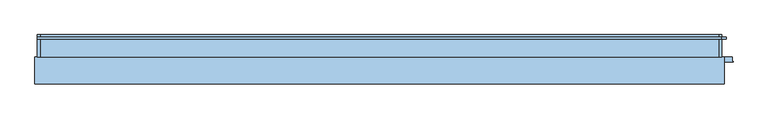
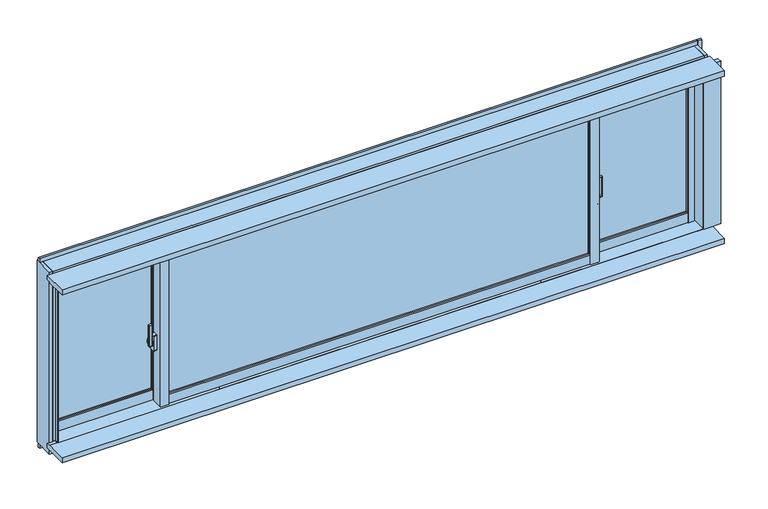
"""IFC4 building model written with IfcOpenShell, lengths in millimetres: window geometry, FNSⅡ100R_非防火_面付枠_単窓 : 両袖片引."""

from ifc_helpers import new_model, si_unit, point, frame, frame_2d, origin, place, context, project, spatial, polyline, circle_curve, trimmed, segment, composite_curve, outline, extrude, faceted_brep, source, transform, mapped, element, save
from ifc_brep_helpers import plane_surface, cylinder_surface, revolved_surface, advanced_brep


def window_23b62082(model_context):
    return source(origin(), model_context, "Body", "SolidModel", [
        extrude(outline(polyline([(1020.0, 82.0), (1468.0, 82.0), (1468.0, 76.0), (1020.0, 76.0), (1020.0, 82.0)])), frame((0.0, 0.0, 948.0), z_axis=(0.0, 0.0, 1.0), x_axis=(1.0, 0.0, 0.0)), (0.0, 0.0, 1.0), 712.0),
        extrude(outline(polyline([(1020.0, 100.0), (1468.0, 100.0), (1468.0, 94.0), (1020.0, 94.0), (1020.0, 100.0)])), frame((0.0, 0.0, 948.0), z_axis=(0.0, 0.0, 1.0), x_axis=(1.0, 0.0, 0.0)), (0.0, 0.0, 1.0), 712.0),
        extrude(outline(composite_curve([segment(trimmed(circle_curve(frame_2d((1041.0, 40.6)), 2.0), [point((1039.0, 40.6))], [point((1041.3606557, 42.5672131))], False, "CARTESIAN"), True, "CONTINUOUS"), segment(polyline([(1041.3606557, 42.5672131), (1052.3606557, 40.5505464)]), True, "CONTINUOUS"), segment(trimmed(circle_curve(frame_2d((1052.0, 38.5833333)), 2.0), [point((1052.3606557, 40.5505464))], [point((1054.0, 38.5833333))], False, "CARTESIAN"), True, "CONTINUOUS"), segment(polyline([(1054.0, 38.5833333), (1054.0, 34.4166667)]), True, "CONTINUOUS"), segment(trimmed(circle_curve(frame_2d((1052.0, 34.4166667)), 2.0), [point((1054.0, 34.4166667))], [point((1052.3606557, 32.4494536))], False, "CARTESIAN"), True, "CONTINUOUS"), segment(polyline([(1052.3606557, 32.4494536), (1041.3606557, 30.4327869)]), True, "CONTINUOUS"), segment(trimmed(circle_curve(frame_2d((1041.0, 32.4)), 2.0), [point((1041.3606557, 30.4327869))], [point((1039.0, 32.4))], False, "CARTESIAN"), True, "CONTINUOUS"), segment(polyline([(1039.0, 32.4), (1039.0, 40.6)]), True, "CONTINUOUS")], self_intersect=False)), frame((0.0, 0.0, 1190.0), z_axis=(0.0, 0.0, 1.0), x_axis=(1.0, 0.0, 0.0)), (0.0, 0.0, 1.0), 100.0),
        advanced_brep(
        [(1039.0, 42.6466117, 1179.3190372), (1039.0, 41.4310745, 1186.2126915), (1037.5, 41.4310745, 1186.2126915), (1037.5, 42.907084, 1177.8418256), (1045.5, 42.907084, 1177.8418256), (1045.5, 42.6466117, 1179.3190372), (1045.5, 44.8234285, 1221.7333311), (1037.5, 44.8234285, 1221.7333311), (1045.5, 44.4351999, 1220.2844424), (1039.0, 44.4351999, 1220.2844424), (1039.0, 42.6234666, 1213.5229616), (1037.5, 42.6234666, 1213.5229616)],
        [
            (0, 1),
            (1, 2),
            (2, 3),
            (3, 4),
            (4, 5),
            (5, 0),
            (6, 4, circle_curve(frame((1045.5, 39.0, 1200.0), z_axis=(-1.0, 0.0, 0.0), x_axis=(0.0, 0.25881904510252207, 0.965925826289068)), 22.5)),
            (3, 7, circle_curve(frame((1037.5, 39.0, 1200.0), z_axis=(1.0, 0.0, 0.0), x_axis=(0.0, 0.25881904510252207, 0.965925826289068)), 22.5)),
            (7, 6),
            (8, 5, circle_curve(frame((1045.5, 39.0, 1200.0), z_axis=(-1.0, 0.0, 0.0), x_axis=(0.0, 0.25881904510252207, 0.965925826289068)), 21.0)),
            (6, 8),
            (9, 0, circle_curve(frame((1039.0, 39.0, 1200.0), z_axis=(-1.0, 0.0, 0.0), x_axis=(0.0, 0.25881904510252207, 0.965925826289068)), 21.0)),
            (8, 9),
            (9, 10),
            (10, 1, circle_curve(frame((1039.0, 39.0, 1200.0), z_axis=(1.0, 0.0, 0.0), x_axis=(0.0, -1.0, 0.0)), 14.0)),
            (7, 11),
            (11, 10),
            (2, 11, circle_curve(frame((1037.5, 39.0, 1200.0), z_axis=(-1.0, 0.0, 0.0), x_axis=(0.0, -1.0, 0.0)), 14.0)),
        ],
        [
            plane_surface(frame((1043.5470497, 39.0, 1200.0), z_axis=(0.0, -0.9848077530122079, -0.17364817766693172), x_axis=(0.0, 0.17364817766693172, -0.9848077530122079))),
            cylinder_surface(frame((1043.5470497, 39.0, 1200.0), z_axis=(1.0, 0.0, 0.0), x_axis=(0.0, 0.25881904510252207, 0.965925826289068)), 22.5),
            plane_surface(frame((1045.5, 39.0, 1200.0), z_axis=(1.0, 0.0, 0.0), x_axis=(0.0, 0.25881904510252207, 0.965925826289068))),
            revolved_surface(polyline([(1045.5, 44.43519994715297, 1220.2844423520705), (1039.0, 44.43519994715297, 1220.2844423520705)]), (1043.5470497, 39.0, 1200.0), (1.0, 0.0, 0.0)),
            plane_surface(frame((1039.0, 39.0, 1200.0), z_axis=(1.0, 0.0, 0.0), x_axis=(0.0, 0.25881904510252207, 0.965925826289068))),
            plane_surface(frame((1043.5470497, 39.0, 1200.0), z_axis=(0.0, -0.965925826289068, 0.25881904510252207), x_axis=(0.0, 0.25881904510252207, 0.965925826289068))),
            plane_surface(frame((1037.5, 39.0, 1200.0), z_axis=(-1.0, 0.0, 0.0), x_axis=(0.0, 0.25881904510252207, 0.965925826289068))),
            cylinder_surface(frame((1037.5, 39.0, 1200.0), z_axis=(1.0, 0.0, 0.0), x_axis=(0.0, -1.0, 0.0)), 14.0),
        ],
        [
            (0, [[1, 2, 3, 4, 5, 6]]),
            (1, [[7, -4, 8, 9]]),
            (2, [[10, -5, -7, 11]]),
            (3, [[12, -6, -10, 13]]),
            (4, [[14, 15, -1, -12]]),
            (5, [[16, 17, -14, -13, -11, -9]]),
            (6, [[-3, 18, -16, -8]]),
            (7, [[-17, -18, -2, -15]]),
        ],
    ),
        extrude(outline(composite_curve([segment(trimmed(circle_curve(frame_2d((39.0, 1200.0)), 11.5), [point((50.5, 1200.0))], [point((27.5, 1200.0))], False, "CARTESIAN"), True, "CONTINUOUS"), segment(trimmed(circle_curve(frame_2d((39.0, 1200.0)), 11.5), [point((27.5, 1200.0))], [point((50.5, 1200.0))], False, "CARTESIAN"), True, "CONTINUOUS")], self_intersect=False)), frame((1035.0, 0.0, 0.0), z_axis=(1.0, 0.0, 0.0), x_axis=(0.0, 1.0, 0.0)), (0.0, 0.0, 1.0), 2.5),
        extrude(outline(composite_curve([segment(polyline([(30.0, 1237.5), (48.0, 1237.5)]), True, "CONTINUOUS"), segment(trimmed(circle_curve(frame_2d((48.0, 1235.5)), 2.0), [point((48.0, 1237.5))], [point((50.0, 1235.5))], False, "CARTESIAN"), True, "CONTINUOUS"), segment(polyline([(50.0, 1235.5), (50.0, 1164.5)]), True, "CONTINUOUS"), segment(trimmed(circle_curve(frame_2d((48.0, 1164.5)), 2.0), [point((50.0, 1164.5))], [point((48.0, 1162.5))], False, "CARTESIAN"), True, "CONTINUOUS"), segment(polyline([(48.0, 1162.5), (30.0, 1162.5)]), True, "CONTINUOUS"), segment(trimmed(circle_curve(frame_2d((30.0, 1164.5)), 2.0), [point((30.0, 1162.5))], [point((28.0, 1164.5))], False, "CARTESIAN"), True, "CONTINUOUS"), segment(polyline([(28.0, 1164.5), (28.0, 1235.5)]), True, "CONTINUOUS"), segment(trimmed(circle_curve(frame_2d((30.0, 1235.5)), 2.0), [point((28.0, 1235.5))], [point((30.0, 1237.5))], False, "CARTESIAN"), True, "CONTINUOUS")], self_intersect=False)), frame((1020.0, 0.0, 0.0), z_axis=(1.0, 0.0, 0.0), x_axis=(0.0, 1.0, 0.0)), (0.0, 0.0, 1.0), 15.0),
        extrude(outline(composite_curve([segment(polyline([(-1039.0, 40.6), (-1039.0, 32.4)]), True, "CONTINUOUS"), segment(trimmed(circle_curve(frame_2d((-1041.0, 32.4)), 2.0), [point((-1039.0, 32.4))], [point((-1041.3606557, 30.4327869))], False, "CARTESIAN"), True, "CONTINUOUS"), segment(polyline([(-1041.3606557, 30.4327869), (-1052.3606557, 32.4494536)]), True, "CONTINUOUS"), segment(trimmed(circle_curve(frame_2d((-1052.0, 34.4166667)), 2.0), [point((-1052.3606557, 32.4494536))], [point((-1054.0, 34.4166667))], False, "CARTESIAN"), True, "CONTINUOUS"), segment(polyline([(-1054.0, 34.4166667), (-1054.0, 38.5833333)]), True, "CONTINUOUS"), segment(trimmed(circle_curve(frame_2d((-1052.0, 38.5833333)), 2.0), [point((-1054.0, 38.5833333))], [point((-1052.3606557, 40.5505464))], False, "CARTESIAN"), True, "CONTINUOUS"), segment(polyline([(-1052.3606557, 40.5505464), (-1041.3606557, 42.5672131)]), True, "CONTINUOUS"), segment(trimmed(circle_curve(frame_2d((-1041.0, 40.6)), 2.0), [point((-1041.3606557, 42.5672131))], [point((-1039.0, 40.6))], False, "CARTESIAN"), True, "CONTINUOUS")], self_intersect=False)), frame((0.0, 0.0, 1190.0), z_axis=(0.0, 0.0, 1.0), x_axis=(1.0, 0.0, 0.0)), (0.0, 0.0, 1.0), 100.0),
        advanced_brep(
        [(-1039.0, 42.6466117, 1179.3190372), (-1045.5, 42.6466117, 1179.3190372), (-1045.5, 42.907084, 1177.8418256), (-1037.5, 42.907084, 1177.8418256), (-1037.5, 41.4310745, 1186.2126915), (-1039.0, 41.4310745, 1186.2126915), (-1045.5, 44.4351999, 1220.2844424), (-1045.5, 44.8234285, 1221.7333311), (-1037.5, 44.8234285, 1221.7333311), (-1037.5, 42.6234666, 1213.5229616), (-1039.0, 44.4351999, 1220.2844424), (-1039.0, 42.6234666, 1213.5229616)],
        [
            (0, 1),
            (1, 2),
            (2, 3),
            (3, 4),
            (4, 5),
            (5, 0),
            (6, 7),
            (7, 2, circle_curve(frame((-1045.5, 39.0, 1200.0), z_axis=(-1.0, 0.0, 0.0), x_axis=(0.0, 0.25881904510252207, 0.965925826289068)), 22.5)),
            (1, 6, circle_curve(frame((-1045.5, 39.0, 1200.0), z_axis=(1.0, 0.0, 0.0), x_axis=(0.0, 0.25881904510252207, 0.965925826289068)), 21.0)),
            (3, 8, circle_curve(frame((-1037.5, 39.0, 1200.0), z_axis=(1.0, 0.0, 0.0), x_axis=(0.0, 0.25881904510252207, 0.965925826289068)), 22.5)),
            (8, 9),
            (9, 4, circle_curve(frame((-1037.5, 39.0, 1200.0), z_axis=(1.0, 0.0, 0.0), x_axis=(0.0, -1.0, 0.0)), 14.0)),
            (8, 7),
            (6, 10),
            (10, 11),
            (11, 9),
            (0, 10, circle_curve(frame((-1039.0, 39.0, 1200.0), z_axis=(1.0, 0.0, 0.0), x_axis=(0.0, 0.25881904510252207, 0.965925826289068)), 21.0)),
            (5, 11, circle_curve(frame((-1039.0, 39.0, 1200.0), z_axis=(-1.0, 0.0, 0.0), x_axis=(0.0, -1.0, 0.0)), 14.0)),
        ],
        [
            plane_surface(frame((-1043.5470497, 39.0, 1200.0), z_axis=(0.0, -0.9848077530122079, -0.17364817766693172), x_axis=(0.0, 0.17364817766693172, -0.9848077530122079))),
            plane_surface(frame((-1045.5, 39.0, 1200.0), z_axis=(-1.0, 0.0, 0.0), x_axis=(0.0, 0.25881904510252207, 0.965925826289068))),
            plane_surface(frame((-1037.5, 39.0, 1200.0), z_axis=(1.0, 0.0, 0.0), x_axis=(0.0, 0.25881904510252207, 0.965925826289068))),
            plane_surface(frame((-1043.5470497, 39.0, 1200.0), z_axis=(0.0, -0.965925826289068, 0.25881904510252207), x_axis=(0.0, 0.25881904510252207, 0.965925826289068))),
            cylinder_surface(frame((-1043.5470497, 39.0, 1200.0), z_axis=(-1.0, 0.0, 0.0), x_axis=(0.0, 0.25881904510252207, 0.965925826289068)), 22.5),
            revolved_surface(polyline([(-1045.5, 44.43519994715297, 1220.2844423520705), (-1039.0, 44.43519994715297, 1220.2844423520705)]), (-1043.5470497, 39.0, 1200.0), (-1.0, 0.0, 0.0)),
            plane_surface(frame((-1039.0, 39.0, 1200.0), z_axis=(-1.0, 0.0, 0.0), x_axis=(0.0, 0.25881904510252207, 0.965925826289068))),
            cylinder_surface(frame((-1037.5, 39.0, 1200.0), z_axis=(-1.0, 0.0, 0.0), x_axis=(0.0, -1.0, 0.0)), 14.0),
        ],
        [
            (0, [[1, 2, 3, 4, 5, 6]]),
            (1, [[7, 8, -2, 9]]),
            (2, [[10, 11, 12, -4]]),
            (3, [[13, -7, 14, 15, 16, -11]]),
            (4, [[-13, -10, -3, -8]]),
            (5, [[-14, -9, -1, 17]]),
            (6, [[-17, -6, 18, -15]]),
            (7, [[-18, -5, -12, -16]]),
        ],
    ),
        extrude(outline(composite_curve([segment(trimmed(circle_curve(frame_2d((39.0, 1200.0)), 11.5), [point((50.5, 1200.0))], [point((27.5, 1200.0))], False, "CARTESIAN"), True, "CONTINUOUS"), segment(trimmed(circle_curve(frame_2d((39.0, 1200.0)), 11.5), [point((27.5, 1200.0))], [point((50.5, 1200.0))], False, "CARTESIAN"), True, "CONTINUOUS")], self_intersect=False)), frame((-1037.5, 0.0, 0.0), z_axis=(1.0, 0.0, 0.0), x_axis=(0.0, 1.0, 0.0)), (0.0, 0.0, 1.0), 2.5),
        extrude(outline(composite_curve([segment(polyline([(30.0, 1237.5), (48.0, 1237.5)]), True, "CONTINUOUS"), segment(trimmed(circle_curve(frame_2d((48.0, 1235.5)), 2.0), [point((48.0, 1237.5))], [point((50.0, 1235.5))], False, "CARTESIAN"), True, "CONTINUOUS"), segment(polyline([(50.0, 1235.5), (50.0, 1164.5)]), True, "CONTINUOUS"), segment(trimmed(circle_curve(frame_2d((48.0, 1164.5)), 2.0), [point((50.0, 1164.5))], [point((48.0, 1162.5))], False, "CARTESIAN"), True, "CONTINUOUS"), segment(polyline([(48.0, 1162.5), (30.0, 1162.5)]), True, "CONTINUOUS"), segment(trimmed(circle_curve(frame_2d((30.0, 1164.5)), 2.0), [point((30.0, 1162.5))], [point((28.0, 1164.5))], False, "CARTESIAN"), True, "CONTINUOUS"), segment(polyline([(28.0, 1164.5), (28.0, 1235.5)]), True, "CONTINUOUS"), segment(trimmed(circle_curve(frame_2d((30.0, 1235.5)), 2.0), [point((28.0, 1235.5))], [point((30.0, 1237.5))], False, "CARTESIAN"), True, "CONTINUOUS")], self_intersect=False)), frame((-1035.0, 0.0, 0.0), z_axis=(1.0, 0.0, 0.0), x_axis=(0.0, 1.0, 0.0)), (0.0, 0.0, 1.0), 15.0),
        extrude(outline(polyline([(-980.0, 24.0), (980.0, 24.0), (980.0, 18.0), (-980.0, 18.0), (-980.0, 24.0)])), frame((0.0, 0.0, 948.0), z_axis=(0.0, 0.0, 1.0), x_axis=(1.0, 0.0, 0.0)), (0.0, 0.0, 1.0), 712.0),
        extrude(outline(polyline([(-980.0, 42.0), (980.0, 42.0), (980.0, 36.0), (-980.0, 36.0), (-980.0, 42.0)])), frame((0.0, 0.0, 948.0), z_axis=(0.0, 0.0, 1.0), x_axis=(1.0, 0.0, 0.0)), (0.0, 0.0, 1.0), 712.0),
        extrude(outline(polyline([(-1468.0, 82.0), (-1020.0, 82.0), (-1020.0, 76.0), (-1468.0, 76.0), (-1468.0, 82.0)])), frame((0.0, 0.0, 948.0), z_axis=(0.0, 0.0, 1.0), x_axis=(1.0, 0.0, 0.0)), (0.0, 0.0, 1.0), 712.0),
        extrude(outline(polyline([(-1468.0, 100.0), (-1020.0, 100.0), (-1020.0, 94.0), (-1468.0, 94.0), (-1468.0, 100.0)])), frame((0.0, 0.0, 948.0), z_axis=(0.0, 0.0, 1.0), x_axis=(1.0, 0.0, 0.0)), (0.0, 0.0, 1.0), 712.0),
        faceted_brep([(-1500.0, 79.0, 1700.0), (-1489.5, 79.0, 1700.0), (-1489.5, 66.0, 1700.0), (-1468.0, 66.0, 1700.0), (-1468.0, 108.0, 1700.0), (-1500.0, 108.0, 1700.0), (-1500.0, 79.0, 860.0), (-1468.0, 79.0, 860.0), (-1468.0, 79.0, 900.0), (-1489.5, 79.0, 900.0), (-1500.0, 108.0, 860.0), (-1468.0, 108.0, 860.0), (-1489.5, 66.0, 900.0), (-1468.0, 66.0, 900.0)], [[[0, 1, 2, 3, 4, 5]], [[1, 0, 6, 7, 8, 9]], [[7, 6, 10, 11]], [[2, 1, 9, 12]], [[3, 2, 12, 13]], [[4, 3, 13, 8, 7, 11]], [[5, 4, 11, 10]], [[6, 0, 5, 10]], [[9, 8, 13, 12]]]),
        faceted_brep([(1500.0, 79.0, 1700.0), (1500.0, 108.0, 1700.0), (1468.0, 108.0, 1700.0), (1468.0, 66.0, 1700.0), (1489.5, 66.0, 1700.0), (1489.5, 79.0, 1700.0), (1489.5, 66.0, 860.0), (1489.5, 79.0, 860.0), (1500.0, 79.0, 860.0), (1468.0, 66.0, 860.0), (1468.0, 79.0, 860.0), (1468.0, 108.0, 860.0), (1500.0, 108.0, 860.0), (1468.0, 66.0, 900.0)], [[[0, 1, 2, 3, 4, 5]], [[5, 4, 6, 7]], [[8, 7, 6, 9, 10, 11, 12]], [[1, 0, 8, 12]], [[2, 1, 12, 11]], [[3, 2, 11, 10, 9, 13]], [[4, 3, 13, 9, 6]], [[0, 5, 7, 8]]]),
        faceted_brep([(-1001.8, 65.5, 1700.0), (-1020.0, 65.5, 1700.0), (-1020.0, 65.5, 900.0), (-1001.8, 65.5, 900.0), (-1001.8, 53.1, 1700.0), (-1001.8, 53.1, 900.0), (-980.0, 79.0, 900.0), (-1020.0, 79.0, 900.0), (-1020.0, 79.0, 860.0), (-980.0, 79.0, 860.0), (-980.0, 53.1, 1700.0), (-980.0, 108.0, 1700.0), (-1020.0, 108.0, 1700.0), (-1020.0, 108.0, 860.0), (-980.0, 108.0, 860.0), (-980.0, 53.1, 900.0)], [[[0, 1, 2, 3]], [[4, 0, 3, 5]], [[6, 7, 8, 9]], [[1, 0, 4, 10, 11, 12]], [[13, 14, 9, 8]], [[10, 4, 5, 15]], [[11, 10, 15, 6, 9, 14]], [[12, 11, 14, 13]], [[1, 12, 13, 8, 7, 2]], [[7, 6, 15, 5, 3, 2]]]),
        faceted_brep([(1020.0, 79.0, 900.0), (980.0, 79.0, 900.0), (980.0, 79.0, 860.0), (1020.0, 79.0, 860.0), (1020.0, 108.0, 1700.0), (1020.0, 65.5, 1700.0), (1020.0, 65.5, 900.0), (1020.0, 108.0, 860.0), (980.0, 108.0, 1700.0), (980.0, 108.0, 860.0), (980.0, 53.1, 1700.0), (1001.8, 53.1, 1700.0), (1001.8, 65.5, 1700.0), (1001.8, 65.5, 900.0), (1001.8, 53.1, 900.0), (980.0, 53.1, 900.0)], [[[0, 1, 2, 3]], [[4, 5, 6, 0, 3, 7]], [[8, 4, 7, 9]], [[5, 4, 8, 10, 11, 12]], [[9, 7, 3, 2]], [[1, 0, 6, 13, 14, 15]], [[10, 8, 9, 2, 1, 15]], [[11, 10, 15, 14]], [[12, 11, 14, 13]], [[5, 12, 13, 6]]]),
        extrude(outline(polyline([(-1020.0, 53.1), (-1015.0, 53.1), (-1015.0, 8.0), (-985.0, 8.0), (-985.0, 12.0), (-980.0, 12.0), (-980.0, 0.0), (-1020.0, 0.0), (-1020.0, 53.1)])), frame((0.0, 0.0, 900.0), z_axis=(0.0, 0.0, 1.0), x_axis=(1.0, 0.0, 0.0)), (0.0, 0.0, 1.0), 800.0),
        extrude(outline(polyline([(1020.0, 53.1), (1020.0, 0.0), (980.0, 0.0), (980.0, 12.0), (985.0, 12.0), (985.0, 8.0), (1015.0, 8.0), (1015.0, 53.1), (1020.0, 53.1)])), frame((0.0, 0.0, 900.0), z_axis=(0.0, 0.0, 1.0), x_axis=(1.0, 0.0, 0.0)), (0.0, 0.0, 1.0), 800.0),
        extrude(outline(polyline([(-1015.0, 53.1), (-980.0, 53.1), (-980.0, 12.0), (-985.0, 12.0), (-985.0, 8.0), (-1015.0, 8.0), (-1015.0, 53.1)])), frame((0.0, 0.0, 900.0), z_axis=(0.0, 0.0, 1.0), x_axis=(1.0, 0.0, 0.0)), (0.0, 0.0, 1.0), 800.0),
        extrude(outline(polyline([(1015.0, 53.1), (1015.0, 8.0), (985.0, 8.0), (985.0, 12.0), (980.0, 12.0), (980.0, 53.1), (1015.0, 53.1)])), frame((0.0, 0.0, 900.0), z_axis=(0.0, 0.0, 1.0), x_axis=(1.0, 0.0, 0.0)), (0.0, 0.0, 1.0), 800.0),
        extrude(outline(polyline([(-1001.8, 65.5), (-1001.8, 58.0), (-1020.0, 58.0), (-1020.0, 65.5), (-1001.8, 65.5)])), frame((0.0, 0.0, 900.0), z_axis=(0.0, 0.0, 1.0), x_axis=(1.0, 0.0, 0.0)), (0.0, 0.0, 1.0), 800.0),
        extrude(outline(polyline([(1001.8, 65.5), (1020.0, 65.5), (1020.0, 58.0), (1001.8, 58.0), (1001.8, 65.5)])), frame((0.0, 0.0, 900.0), z_axis=(0.0, 0.0, 1.0), x_axis=(1.0, 0.0, 0.0)), (0.0, 0.0, 1.0), 800.0),
        extrude(outline(polyline([(-1497.0, 79.0), (-1489.5, 79.0), (-1489.5, 66.0), (-1468.0, 66.0), (-1468.0, 58.0), (-1497.0, 58.0), (-1497.0, 79.0)])), frame((0.0, 0.0, 900.0), z_axis=(0.0, 0.0, 1.0), x_axis=(1.0, 0.0, 0.0)), (0.0, 0.0, 1.0), 800.0),
        extrude(outline(polyline([(1497.0, 79.0), (1497.0, 58.0), (1468.0, 58.0), (1468.0, 66.0), (1489.5, 66.0), (1489.5, 79.0), (1497.0, 79.0)])), frame((0.0, 0.0, 900.0), z_axis=(0.0, 0.0, 1.0), x_axis=(1.0, 0.0, 0.0)), (0.0, 0.0, 1.0), 800.0),
        extrude(outline(polyline([(60.0, 948.0), (68.0, 948.0), (68.0, 925.5), (79.0, 925.5), (79.0, 900.0), (60.0, 900.0), (60.0, 948.0)])), frame((1020.0, 0.0, 0.0), z_axis=(1.0, 0.0, 0.0), x_axis=(0.0, 1.0, 0.0)), (0.0, 0.0, 1.0), 448.0),
        extrude(outline(polyline([(108.0, 860.0), (79.0, 860.0), (79.0, 925.5), (68.0, 925.5), (68.0, 948.0), (108.0, 948.0), (108.0, 860.0)])), frame((1020.0, 0.0, 0.0), z_axis=(1.0, 0.0, 0.0), x_axis=(0.0, 1.0, 0.0)), (0.0, 0.0, 1.0), 448.0),
        extrude(outline(polyline([(2.0, 903.0), (2.0, 948.0), (10.0, 948.0), (10.0, 925.5), (21.0, 925.5), (21.0, 903.0), (2.0, 903.0)])), frame((-980.0, 0.0, 0.0), z_axis=(1.0, 0.0, 0.0), x_axis=(0.0, 1.0, 0.0)), (0.0, 0.0, 1.0), 1960.0),
        extrude(outline(polyline([(50.0, 900.0), (21.0, 900.0), (21.0, 925.5), (10.0, 925.5), (10.0, 948.0), (50.0, 948.0), (50.0, 900.0)])), frame((-980.0, 0.0, 0.0), z_axis=(1.0, 0.0, 0.0), x_axis=(0.0, 1.0, 0.0)), (0.0, 0.0, 1.0), 1960.0),
        extrude(outline(polyline([(60.0, 948.0), (68.0, 948.0), (68.0, 925.5), (79.0, 925.5), (79.0, 900.0), (60.0, 900.0), (60.0, 948.0)])), frame((-1468.0, 0.0, 0.0), z_axis=(1.0, 0.0, 0.0), x_axis=(0.0, 1.0, 0.0)), (0.0, 0.0, 1.0), 448.0),
        extrude(outline(polyline([(108.0, 860.0), (79.0, 860.0), (79.0, 925.5), (68.0, 925.5), (68.0, 948.0), (108.0, 948.0), (108.0, 860.0)])), frame((-1468.0, 0.0, 0.0), z_axis=(1.0, 0.0, 0.0), x_axis=(0.0, 1.0, 0.0)), (0.0, 0.0, 1.0), 448.0),
        extrude(outline(polyline([(108.0, 1700.0), (108.0, 1660.0), (68.0, 1660.0), (68.0, 1680.5), (81.0, 1680.5), (81.0, 1700.0), (108.0, 1700.0)])), frame((1020.0, 0.0, 0.0), z_axis=(1.0, 0.0, 0.0), x_axis=(0.0, 1.0, 0.0)), (0.0, 0.0, 1.0), 448.0),
        extrude(outline(polyline([(81.0, 1680.5), (68.0, 1680.5), (68.0, 1660.0), (60.0, 1660.0), (60.0, 1700.0), (81.0, 1700.0), (81.0, 1680.5)])), frame((1020.0, 0.0, 0.0), z_axis=(1.0, 0.0, 0.0), x_axis=(0.0, 1.0, 0.0)), (0.0, 0.0, 1.0), 448.0),
        extrude(outline(polyline([(23.0, 1680.5), (10.0, 1680.5), (10.0, 1660.0), (2.0, 1660.0), (2.0, 1700.0), (23.0, 1700.0), (23.0, 1680.5)])), frame((-980.0, 0.0, 0.0), z_axis=(1.0, 0.0, 0.0), x_axis=(0.0, 1.0, 0.0)), (0.0, 0.0, 1.0), 1960.0),
        extrude(outline(polyline([(50.0, 1700.0), (50.0, 1660.0), (10.0, 1660.0), (10.0, 1680.5), (23.0, 1680.5), (23.0, 1700.0), (50.0, 1700.0)])), frame((-980.0, 0.0, 0.0), z_axis=(1.0, 0.0, 0.0), x_axis=(0.0, 1.0, 0.0)), (0.0, 0.0, 1.0), 1960.0),
        extrude(outline(polyline([(81.0, 1680.5), (68.0, 1680.5), (68.0, 1660.0), (60.0, 1660.0), (60.0, 1700.0), (81.0, 1700.0), (81.0, 1680.5)])), frame((-1468.0, 0.0, 0.0), z_axis=(1.0, 0.0, 0.0), x_axis=(0.0, 1.0, 0.0)), (0.0, 0.0, 1.0), 448.0),
        extrude(outline(polyline([(108.0, 1700.0), (108.0, 1660.0), (68.0, 1660.0), (68.0, 1680.5), (81.0, 1680.5), (81.0, 1700.0), (108.0, 1700.0)])), frame((-1468.0, 0.0, 0.0), z_axis=(1.0, 0.0, 0.0), x_axis=(0.0, 1.0, 0.0)), (0.0, 0.0, 1.0), 448.0),
        faceted_brep([(-747.5, 19.0, 900.0), (-747.5, 47.3, 900.0), (-747.5, 47.3, 884.0), (-747.5, 19.0, 884.0), (1515.0, 110.0, 840.0), (1515.0, 110.0, 849.0), (1515.0, 76.0, 849.0), (1515.0, 76.0, 884.0), (1515.0, 10.0, 884.0), (1515.0, 10.0, 840.0), (-1515.0, 10.0, 884.0), (-1515.0, 10.0, 840.0), (-1515.0, 110.0, 840.0), (-1515.0, 110.0, 849.0), (-1515.0, 76.0, 884.0), (747.5, 47.3, 884.0), (747.5, 19.0, 884.0), (-1515.0, 76.0, 849.0), (747.5, 19.0, 900.0), (747.5, 47.3, 900.0)], [[[0, 1, 2, 3]], [[4, 5, 6, 7, 8, 9]], [[9, 8, 10, 11]], [[5, 4, 12, 13]], [[8, 7, 14, 10], [15, 16, 3, 2]], [[7, 6, 17, 14]], [[6, 5, 13, 17]], [[4, 9, 11, 12]], [[12, 11, 10, 14, 17, 13]], [[18, 16, 15, 19]], [[16, 18, 0, 3]], [[19, 15, 2, 1]], [[18, 19, 1, 0]]]),
        extrude(outline(polyline([(19.0, 884.0), (10.0, 884.0), (10.0, 897.0), (-10.0, 897.0), (-10.0, 900.0), (19.0, 900.0), (19.0, 884.0)])), frame((-747.5, 0.0, 0.0), z_axis=(1.0, 0.0, 0.0), x_axis=(0.0, 1.0, 0.0)), (0.0, 0.0, 1.0), 1495.0),
        extrude(outline(polyline([(10.0, 884.0), (10.0, 897.0), (-10.0, 897.0), (-10.0, 900.0), (76.0, 900.0), (76.0, 884.0), (10.0, 884.0)])), frame((747.5, 0.0, 0.0), z_axis=(1.0, 0.0, 0.0), x_axis=(0.0, 1.0, 0.0)), (0.0, 0.0, 1.0), 752.5),
        extrude(outline(polyline([(10.0, 884.0), (10.0, 897.0), (-10.0, 897.0), (-10.0, 900.0), (76.0, 900.0), (76.0, 884.0), (10.0, 884.0)])), frame((-1503.0, 0.0, 0.0), z_axis=(1.0, 0.0, 0.0), x_axis=(0.0, 1.0, 0.0)), (0.0, 0.0, 1.0), 755.5),
        faceted_brep([(1515.0, 110.0, 1700.0), (1515.0, 110.0, 1735.0), (1515.0, 10.0, 1735.0), (1515.0, 10.0, 1725.0), (1515.0, 80.3, 1725.0), (1515.0, 80.3, 1700.0), (-1515.0, 110.0, 1700.0), (-1515.0, 80.3, 1700.0), (-1515.0, 80.3, 1725.0), (-1515.0, 10.0, 1725.0), (-1515.0, 10.0, 1735.0), (-1515.0, 110.0, 1735.0), (-747.5, 80.3, 1725.0), (-747.5, 23.0, 1725.0), (747.5, 23.0, 1725.0), (747.5, 80.3, 1725.0), (747.5, 80.3, 1700.0), (-747.5, 80.3, 1700.0), (747.5, 23.0, 1700.0), (-747.5, 23.0, 1700.0)], [[[0, 1, 2, 3, 4, 5]], [[6, 7, 8, 9, 10, 11]], [[4, 3, 9, 8, 12, 13, 14, 15]], [[5, 4, 15, 16]], [[8, 7, 17, 12]], [[0, 5, 16, 18, 19, 17, 7, 6]], [[1, 0, 6, 11]], [[2, 1, 11, 10]], [[3, 2, 10, 9]], [[14, 18, 16, 15]], [[17, 19, 13, 12]], [[18, 14, 13, 19]]]),
        extrude(outline(polyline([(23.0, 1725.0), (23.0, 1700.0), (-10.0, 1700.0), (-10.0, 1703.0), (10.0, 1703.0), (10.0, 1725.0), (23.0, 1725.0)])), frame((-747.5, 0.0, 0.0), z_axis=(1.0, 0.0, 0.0), x_axis=(0.0, 1.0, 0.0)), (0.0, 0.0, 1.0), 1495.0),
        extrude(outline(polyline([(80.3, 1700.0), (-10.0, 1700.0), (-10.0, 1703.0), (10.0, 1703.0), (10.0, 1725.0), (80.3, 1725.0), (80.3, 1700.0)])), frame((747.5, 0.0, 0.0), z_axis=(1.0, 0.0, 0.0), x_axis=(0.0, 1.0, 0.0)), (0.0, 0.0, 1.0), 752.5),
        extrude(outline(polyline([(80.3, 1700.0), (-10.0, 1700.0), (-10.0, 1703.0), (10.0, 1703.0), (10.0, 1725.0), (80.3, 1725.0), (80.3, 1700.0)])), frame((-1500.0, 0.0, 0.0), z_axis=(1.0, 0.0, 0.0), x_axis=(0.0, 1.0, 0.0)), (0.0, 0.0, 1.0), 752.5),
        faceted_brep([(1500.0, 10.0, 1720.0), (1515.0, 10.0, 1720.0), (1515.0, 76.0, 1720.0), (1500.0, 76.0, 1720.0), (1500.0, -10.0, 900.0), (1503.0, -10.0, 900.0), (1503.0, -10.0, 1703.0), (1500.0, -10.0, 1703.0), (1500.0, 76.0, 900.0), (1515.0, 76.0, 900.0), (1515.0, 10.0, 900.0), (1503.0, 10.0, 900.0), (1503.0, 10.0, 1703.0), (1500.0, 10.0, 1703.0)], [[[0, 1, 2, 3]], [[4, 5, 6, 7]], [[4, 8, 9, 10, 11, 5]], [[5, 11, 12, 6]], [[0, 13, 12, 11, 10, 1]], [[2, 1, 10, 9]], [[3, 2, 9, 8]], [[8, 4, 7, 13, 0, 3]], [[12, 13, 7, 6]]]),
        faceted_brep([(-1515.0, 10.0, 900.0), (-1503.0, 10.0, 900.0), (-1503.0, 10.0, 1703.0), (-1500.0, 10.0, 1703.0), (-1500.0, 10.0, 1720.0), (-1515.0, 10.0, 1720.0), (-1503.0, -10.0, 900.0), (-1500.0, -10.0, 900.0), (-1500.0, -10.0, 1703.0), (-1503.0, -10.0, 1703.0), (-1500.0, 76.0, 1720.0), (-1515.0, 76.0, 1720.0), (-1515.0, 76.0, 900.0), (-1500.0, 76.0, 900.0)], [[[0, 1, 2, 3, 4, 5]], [[6, 7, 8, 9]], [[5, 4, 10, 11]], [[0, 12, 13, 7, 6, 1]], [[1, 6, 9, 2]], [[7, 13, 10, 4, 3, 8]], [[11, 10, 13, 12]], [[0, 5, 11, 12]], [[3, 2, 9, 8]]]),
        faceted_brep([(-1530.0, 110.0, 1735.0), (-1515.0, 110.0, 1735.0), (-1515.0, 110.0, 1700.0), (-1500.0, 110.0, 1700.0), (-1500.0, 110.0, 849.0), (-1515.0, 110.0, 849.0), (-1515.0, 110.0, 840.0), (-1530.0, 110.0, 840.0), (-1530.0, 10.0, 1735.0), (-1515.0, 10.0, 1735.0), (-1515.0, 10.0, 840.0), (-1530.0, 10.0, 840.0), (-1515.0, 76.0, 849.0), (-1515.0, 76.0, 1700.0), (-1500.0, 76.0, 1700.0), (-1500.0, 76.0, 849.0)], [[[0, 1, 2, 3, 4, 5, 6, 7]], [[0, 8, 9, 1]], [[7, 6, 10, 11]], [[8, 0, 7, 11]], [[9, 8, 11, 10]], [[1, 9, 10, 6, 5, 12, 13, 2]], [[3, 2, 13, 14]], [[4, 15, 12, 5]], [[14, 13, 12, 15]], [[3, 14, 15, 4]]]),
        faceted_brep([(1515.0, 76.0, 1700.0), (1500.0, 76.0, 1700.0), (1500.0, 76.0, 849.0), (1515.0, 76.0, 849.0), (1515.0, 10.0, 1735.0), (1530.0, 10.0, 1735.0), (1530.0, 110.0, 1735.0), (1515.0, 110.0, 1735.0), (1515.0, 10.0, 840.0), (1515.0, 110.0, 840.0), (1530.0, 110.0, 840.0), (1530.0, 10.0, 840.0), (1500.0, 110.0, 1700.0), (1500.0, 110.0, 849.0), (1515.0, 110.0, 1700.0), (1515.0, 110.0, 849.0)], [[[0, 1, 2, 3]], [[4, 5, 6, 7]], [[8, 9, 10, 11]], [[1, 12, 13, 2]], [[1, 0, 14, 12]], [[2, 13, 15, 3]], [[5, 4, 8, 11]], [[6, 5, 11, 10]], [[7, 6, 10, 9, 15, 13, 12, 14]], [[4, 7, 14, 0, 3, 15, 9, 8]]]),
        extrude(outline(polyline([(1550.0, 90.0), (1530.0, 90.0), (1530.0, 100.0), (1550.0, 100.0), (1550.0, 90.0)])), frame((0.0, 0.0, 820.0), z_axis=(0.0, 0.0, 1.0), x_axis=(1.0, 0.0, 0.0)), (0.0, 0.0, 1.0), 935.0),
        extrude(outline(polyline([(1503.0, -10.0), (1503.0, 10.0), (1577.0, 10.0), (1577.0, -10.0), (1580.0, -10.0), (1580.0, -12.5), (1500.0, -12.5), (1500.0, -10.0), (1503.0, -10.0)])), frame((0.0, 0.0, 900.0), z_axis=(0.0, 0.0, 1.0), x_axis=(1.0, 0.0, 0.0)), (0.0, 0.0, 1.0), 800.0),
        extrude(outline(polyline([(-110.0, 900.0), (-10.0, 900.0), (-10.0, 897.0), (10.0, 897.0), (10.0, 875.0), (-110.0, 875.0), (-110.0, 900.0)])), frame((-1540.0, 0.0, 0.0), z_axis=(1.0, 0.0, 0.0), x_axis=(0.0, 1.0, 0.0)), (0.0, 0.0, 1.0), 3080.0),
        extrude(outline(polyline([(-1530.0, 90.0), (-1530.0, 100.0), (1530.0, 100.0), (1530.0, 90.0), (-1530.0, 90.0)])), frame((0.0, 0.0, 820.0), z_axis=(0.0, 0.0, 1.0), x_axis=(1.0, 0.0, 0.0)), (0.0, 0.0, 1.0), 20.0),
        extrude(outline(polyline([(-110.0, 1725.0), (10.0, 1725.0), (10.0, 1703.0), (-10.0, 1703.0), (-10.0, 1700.0), (-110.0, 1700.0), (-110.0, 1725.0)])), frame((-1540.0, 0.0, 0.0), z_axis=(1.0, 0.0, 0.0), x_axis=(0.0, 1.0, 0.0)), (0.0, 0.0, 1.0), 3080.0),
        extrude(outline(polyline([(-1530.0, 90.0), (-1530.0, 100.0), (1530.0, 100.0), (1530.0, 90.0), (-1530.0, 90.0)])), frame((0.0, 0.0, 1735.0), z_axis=(0.0, 0.0, 1.0), x_axis=(1.0, 0.0, 0.0)), (0.0, 0.0, 1.0), 20.0),
    ])


if __name__ == "__main__":
    model = new_model("IFC4")
    model_context = context("Model", 3, world=origin())
    ifc_project = project(units=[si_unit("LENGTHUNIT", "METRE", prefix="MILLI")], contexts=[model_context])
    site = spatial("IfcSite", under=ifc_project)
    building = spatial("IfcBuilding", under=site)
    placement = place(None, origin())
    window_shape = window_23b62082(model_context)
    element("IfcWindow", 1, ObjectType="FNSⅡ100R_非防火_面付枠_単窓 : 両袖片引", at=placement, inside=building, context=model_context, shape_type="MappedRepresentation", body=[
        mapped(window_shape, transform((0.0, 0.0, 0.0), x_axis=(1.0, 0.0, 0.0), y_axis=(0.0, 1.0, 0.0), z_axis=(0.0, 0.0, 1.0))),
    ])
    save(model, "model.ifc")
